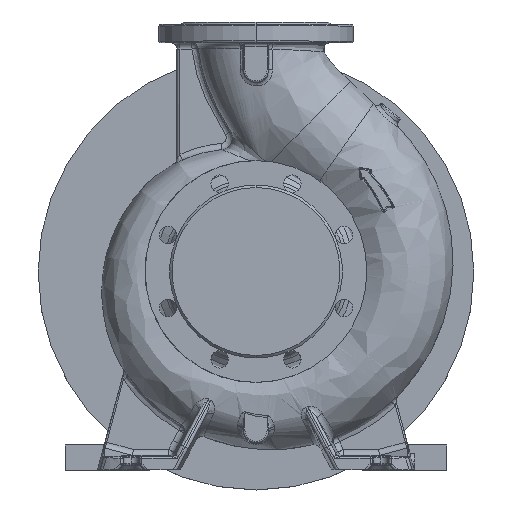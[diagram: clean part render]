
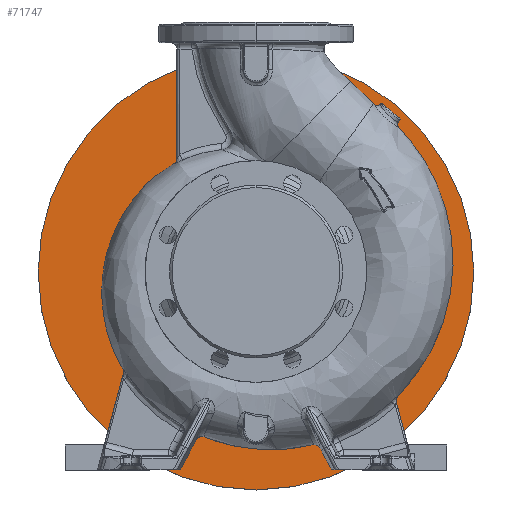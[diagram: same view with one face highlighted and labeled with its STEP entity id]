
A CAD part, top view. The second image highlights one B-rep face of the part: STEP entity #71747.
In plain terms, the highlighted planar face has unit normal (0, 0, 1).
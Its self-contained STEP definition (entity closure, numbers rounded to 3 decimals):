
#1599 = ORIENTED_EDGE ( 'NONE', *, *, #8624, .T. ) ;
#5698 = DIRECTION ( 'NONE',  ( 0., 0., -1. ) ) ;
#7832 = CARTESIAN_POINT ( 'NONE',  ( 0., 0., -289.5 ) ) ;
#8624 = EDGE_CURVE ( 'NONE', #79292, #43608, #61559, .T. ) ;
#8893 = DIRECTION ( 'NONE',  ( 0., 0., 1. ) ) ;
#9170 = DIRECTION ( 'NONE',  ( 0., 0., 1. ) ) ;
#9719 = DIRECTION ( 'NONE',  ( 1., 0., 0. ) ) ;
#10989 = EDGE_CURVE ( 'NONE', #18959, #68696, #41093, .T. ) ;
#15289 = CIRCLE ( 'NONE', #15677, 275. ) ;
#15677 = AXIS2_PLACEMENT_3D ( 'NONE', #78397, #9170, #78968 ) ;
#16524 = ORIENTED_EDGE ( 'NONE', *, *, #39249, .F. ) ;
#17966 = DIRECTION ( 'NONE',  ( -1., 0., 0. ) ) ;
#18959 = VERTEX_POINT ( 'NONE', #79390 ) ;
#20213 = CARTESIAN_POINT ( 'NONE',  ( 275., 0., -289.5 ) ) ;
#30234 = PLANE ( 'NONE',  #61230 ) ;
#33798 = DIRECTION ( 'NONE',  ( 1., 0., 0. ) ) ;
#39249 = EDGE_CURVE ( 'NONE', #68696, #18959, #51809, .T. ) ;
#39802 = CARTESIAN_POINT ( 'NONE',  ( 125., 0., -289.5 ) ) ;
#41093 = CIRCLE ( 'NONE', #67132, 125. ) ;
#43608 = VERTEX_POINT ( 'NONE', #61128 ) ;
#47100 = DIRECTION ( 'NONE',  ( 1., 0., 0. ) ) ;
#48104 = ORIENTED_EDGE ( 'NONE', *, *, #69781, .T. ) ;
#48216 = DIRECTION ( 'NONE',  ( 0., 0., 1. ) ) ;
#51809 = CIRCLE ( 'NONE', #52601, 125. ) ;
#52119 = EDGE_LOOP ( 'NONE', ( #16524, #63866 ) ) ;
#52601 = AXIS2_PLACEMENT_3D ( 'NONE', #60195, #8893, #47100 ) ;
#53252 = DIRECTION ( 'NONE',  ( 0., 0., 1. ) ) ;
#54306 = CARTESIAN_POINT ( 'NONE',  ( 0., 0., -289.5 ) ) ;
#60195 = CARTESIAN_POINT ( 'NONE',  ( 0., 0., -289.5 ) ) ;
#61128 = CARTESIAN_POINT ( 'NONE',  ( -275., 0., -289.5 ) ) ;
#61230 = AXIS2_PLACEMENT_3D ( 'NONE', #75131, #5698, #17966 ) ;
#61559 = CIRCLE ( 'NONE', #64265, 275. ) ;
#63866 = ORIENTED_EDGE ( 'NONE', *, *, #10989, .F. ) ;
#64265 = AXIS2_PLACEMENT_3D ( 'NONE', #54306, #48216, #9719 ) ;
#67132 = AXIS2_PLACEMENT_3D ( 'NONE', #7832, #53252, #33798 ) ;
#68696 = VERTEX_POINT ( 'NONE', #39802 ) ;
#69781 = EDGE_CURVE ( 'NONE', #43608, #79292, #15289, .T. ) ;
#71747 = ADVANCED_FACE ( 'NONE', ( #78988, #72947 ), #30234, .F. ) ;
#72947 = FACE_OUTER_BOUND ( 'NONE', #75121, .T. ) ;
#75121 = EDGE_LOOP ( 'NONE', ( #1599, #48104 ) ) ;
#75131 = CARTESIAN_POINT ( 'NONE',  ( 0., 125., -289.5 ) ) ;
#78397 = CARTESIAN_POINT ( 'NONE',  ( 0., 0., -289.5 ) ) ;
#78968 = DIRECTION ( 'NONE',  ( 1., 0., 0. ) ) ;
#78988 = FACE_BOUND ( 'NONE', #52119, .T. ) ;
#79292 = VERTEX_POINT ( 'NONE', #20213 ) ;
#79390 = CARTESIAN_POINT ( 'NONE',  ( -125., 0., -289.5 ) ) ;
